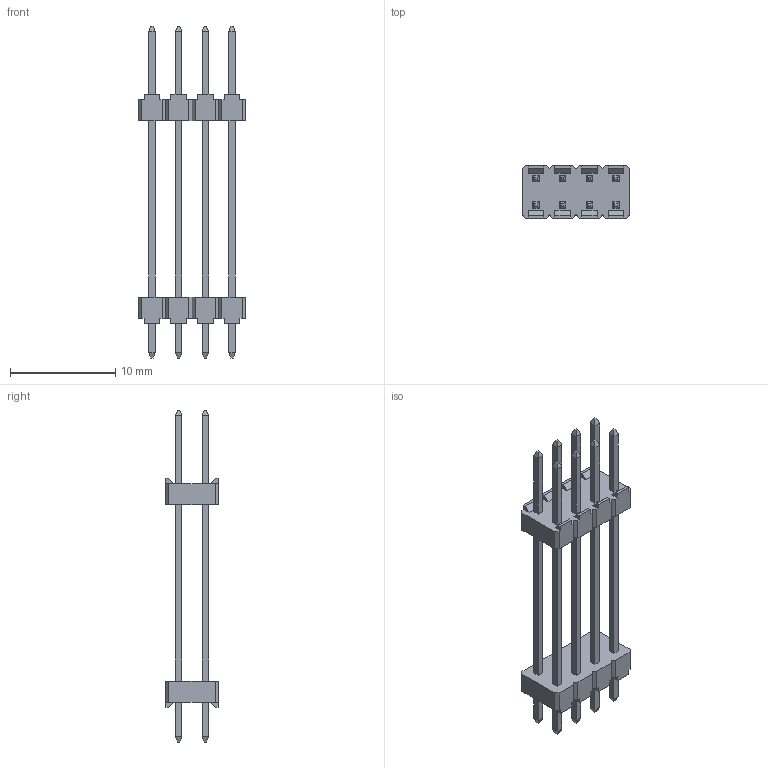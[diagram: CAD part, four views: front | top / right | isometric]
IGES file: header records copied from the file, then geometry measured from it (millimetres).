
Global section: file name: N:\GOLF_VI_2_54mm_UGII\9614XX-X04XX04-XX (TS-2185)\961408-8041404-XX.igs; native system: NX V3.0; preprocessor: UGS NX IGES V4.0; date: 20070618.103328; units: millimetre
Bounding box: 10.16 x 5 x 31.6 mm (x, y, z)
Surface area: 892.8 mm2 (no closed solid volume)
Topology: 0 solids, 0 shells, 316 faces, 1649 edges, 1649 vertices
Faces by surface type: bspline 316
